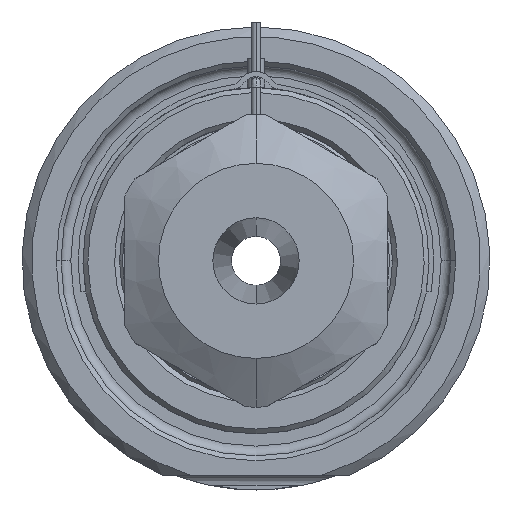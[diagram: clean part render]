
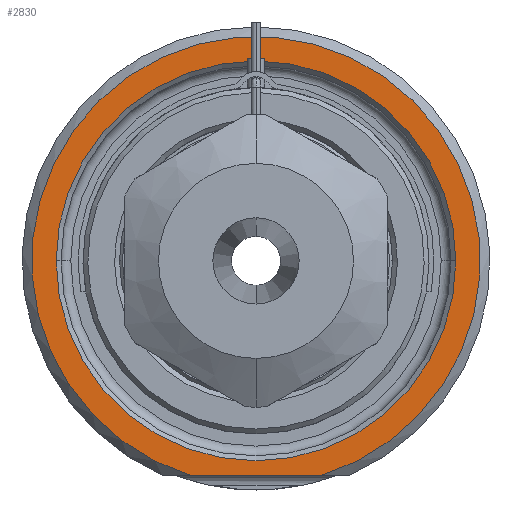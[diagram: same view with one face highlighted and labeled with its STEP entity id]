
A CAD part, front view. The second image highlights one B-rep face of the part: STEP entity #2830.
In plain terms, the highlighted planar face has unit normal (0, -1, 0).
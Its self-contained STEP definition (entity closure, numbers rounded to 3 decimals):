
#1=DIRECTION('',(1.,0.,0.));
#2=VECTOR('',#1,13.416);
#3=CARTESIAN_POINT('',(-6.708,0.,-22.));
#4=LINE('',#3,#2);
#5=CARTESIAN_POINT('',(0.,0.,0.));
#6=DIRECTION('',(0.,1.,0.));
#7=DIRECTION('',(-1.,0.,0.));
#8=AXIS2_PLACEMENT_3D('',#5,#6,#7);
#10=CARTESIAN_POINT('',(0.,0.,0.));
#11=DIRECTION('',(0.,1.,0.));
#12=DIRECTION('',(1.,0.,0.));
#13=AXIS2_PLACEMENT_3D('',#10,#11,#12);
#121=CARTESIAN_POINT('',(0.,0.,0.));
#122=DIRECTION('',(0.,-1.,0.));
#123=DIRECTION('',(0.292,0.,-0.957));
#124=AXIS2_PLACEMENT_3D('',#121,#122,#123);
#2347=CARTESIAN_POINT('',(-20.5,0.,0.));
#2348=CARTESIAN_POINT('',(20.5,0.,0.));
#2349=VERTEX_POINT('',#2347);
#2350=VERTEX_POINT('',#2348);
#2387=CARTESIAN_POINT('',(-6.708,0.,-22.));
#2388=CARTESIAN_POINT('',(6.708,0.,-22.));
#2389=VERTEX_POINT('',#2387);
#2390=VERTEX_POINT('',#2388);
#2813=CARTESIAN_POINT('',(0.,0.,0.));
#2814=DIRECTION('',(0.,-1.,0.));
#2815=DIRECTION('',(1.,0.,0.));
#2816=AXIS2_PLACEMENT_3D('',#2813,#2814,#2815);
#2817=PLANE('',#2816);
#2819=ORIENTED_EDGE('',*,*,#2818,.F.);
#2821=ORIENTED_EDGE('',*,*,#2820,.F.);
#2822=EDGE_LOOP('',(#2819,#2821));
#2823=FACE_OUTER_BOUND('',#2822,.F.);
#2825=ORIENTED_EDGE('',*,*,#2824,.F.);
#2827=ORIENTED_EDGE('',*,*,#2826,.F.);
#2828=EDGE_LOOP('',(#2825,#2827));
#2829=FACE_BOUND('',#2828,.F.);
#2830=ADVANCED_FACE('',(#2823,#2829),#2817,.T.);
#9=CIRCLE('',#8,20.5);
#14=CIRCLE('',#13,20.5);
#125=CIRCLE('',#124,23.);
#2818=EDGE_CURVE('',#2389,#2390,#4,.T.);
#2820=EDGE_CURVE('',#2390,#2389,#125,.T.);
#2824=EDGE_CURVE('',#2349,#2350,#9,.T.);
#2826=EDGE_CURVE('',#2350,#2349,#14,.T.);
